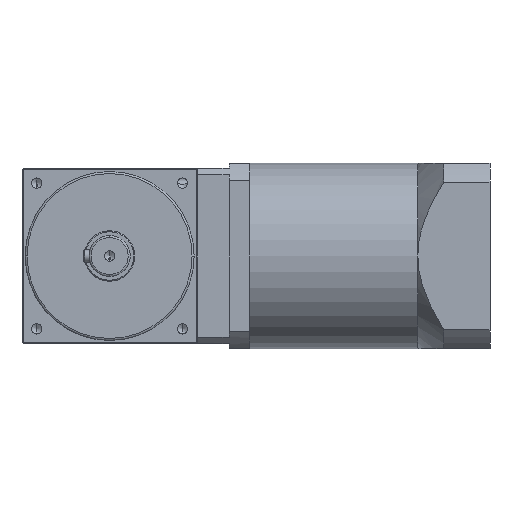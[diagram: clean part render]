
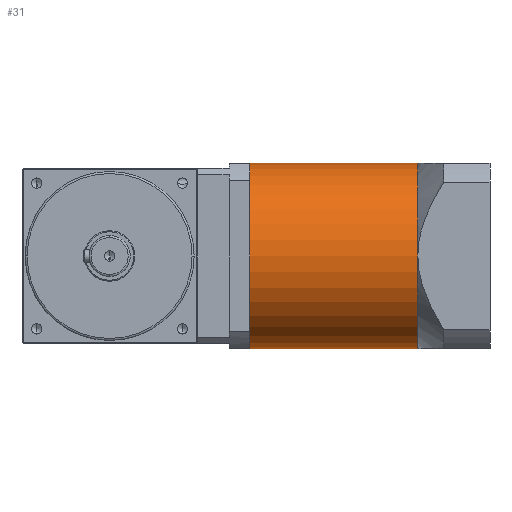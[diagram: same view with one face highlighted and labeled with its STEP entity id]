
A CAD part, left-side view. The second image highlights one B-rep face of the part: STEP entity #31.
In plain terms, the highlighted cylindrical face has radius 45 mm (diameter 90 mm), a partial arc.
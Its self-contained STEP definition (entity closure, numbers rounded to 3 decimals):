
#31 = ADVANCED_FACE ( 'NONE', ( #8100 ), #8512, .T. ) ;
#374 = VERTEX_POINT ( 'NONE', #872 ) ;
#785 = CARTESIAN_POINT ( 'NONE',  ( 0., -68., -45. ) ) ;
#872 = CARTESIAN_POINT ( 'NONE',  ( 0., -149.5, -45. ) ) ;
#1024 = ORIENTED_EDGE ( 'NONE', *, *, #7575, .T. ) ;
#1507 = VERTEX_POINT ( 'NONE', #5269 ) ;
#1534 = AXIS2_PLACEMENT_3D ( 'NONE', #8989, #8958, #9390 ) ;
#1948 = CIRCLE ( 'NONE', #5337, 45. ) ;
#2229 = DIRECTION ( 'NONE',  ( 0., 0., 1. ) ) ;
#2371 = CARTESIAN_POINT ( 'NONE',  ( 0., -149.5, 0. ) ) ;
#2530 = DIRECTION ( 'NONE',  ( 0., 1., 0. ) ) ;
#2550 = CARTESIAN_POINT ( 'NONE',  ( 0., -149.5, -45. ) ) ;
#2559 = DIRECTION ( 'NONE',  ( 0., 1., 0. ) ) ;
#2613 = DIRECTION ( 'NONE',  ( 0., 0., 1. ) ) ;
#2624 = DIRECTION ( 'NONE',  ( 0., -1., 0. ) ) ;
#2646 = DIRECTION ( 'NONE',  ( 0., 1., 0. ) ) ;
#2688 = CARTESIAN_POINT ( 'NONE',  ( 0., -149.5, 0. ) ) ;
#2704 = ORIENTED_EDGE ( 'NONE', *, *, #7770, .T. ) ;
#2847 = CARTESIAN_POINT ( 'NONE',  ( 0., -68., 45. ) ) ;
#3003 = DIRECTION ( 'NONE',  ( 0., 1., 0. ) ) ;
#3493 = LINE ( 'NONE', #7544, #9227 ) ;
#4025 = AXIS2_PLACEMENT_3D ( 'NONE', #2371, #2559, #2229 ) ;
#4258 = ORIENTED_EDGE ( 'NONE', *, *, #5307, .F. ) ;
#4364 = DIRECTION ( 'NONE',  ( 0., -1., 0. ) ) ;
#4667 = CIRCLE ( 'NONE', #8043, 45. ) ;
#5103 = VERTEX_POINT ( 'NONE', #5537 ) ;
#5269 = CARTESIAN_POINT ( 'NONE',  ( 0., -149.5, 45. ) ) ;
#5307 = EDGE_CURVE ( 'NONE', #374, #5511, #7387, .T. ) ;
#5337 = AXIS2_PLACEMENT_3D ( 'NONE', #7189, #2624, #7942 ) ;
#5400 = ORIENTED_EDGE ( 'NONE', *, *, #7651, .T. ) ;
#5511 = VERTEX_POINT ( 'NONE', #785 ) ;
#5537 = CARTESIAN_POINT ( 'NONE',  ( -45., -68., 0. ) ) ;
#5665 = AXIS2_PLACEMENT_3D ( 'NONE', #8837, #4364, #9561 ) ;
#5704 = VERTEX_POINT ( 'NONE', #7914 ) ;
#6981 = ORIENTED_EDGE ( 'NONE', *, *, #8823, .T. ) ;
#7009 = EDGE_LOOP ( 'NONE', ( #4258, #8333, #1024, #6981, #5400, #2704 ) ) ;
#7189 = CARTESIAN_POINT ( 'NONE',  ( 0., -68., 0. ) ) ;
#7324 = EDGE_CURVE ( 'NONE', #374, #5704, #7980, .T. ) ;
#7387 = LINE ( 'NONE', #2550, #9886 ) ;
#7544 = CARTESIAN_POINT ( 'NONE',  ( 0., -149.5, 45. ) ) ;
#7575 = EDGE_CURVE ( 'NONE', #5704, #1507, #4667, .T. ) ;
#7651 = EDGE_CURVE ( 'NONE', #7959, #5103, #1948, .T. ) ;
#7770 = EDGE_CURVE ( 'NONE', #5103, #5511, #8071, .T. ) ;
#7914 = CARTESIAN_POINT ( 'NONE',  ( -45., -149.5, 0. ) ) ;
#7942 = DIRECTION ( 'NONE',  ( 0., 0., 1. ) ) ;
#7959 = VERTEX_POINT ( 'NONE', #2847 ) ;
#7980 = CIRCLE ( 'NONE', #1534, 45. ) ;
#8043 = AXIS2_PLACEMENT_3D ( 'NONE', #2688, #2646, #2613 ) ;
#8071 = CIRCLE ( 'NONE', #5665, 45. ) ;
#8100 = FACE_OUTER_BOUND ( 'NONE', #7009, .T. ) ;
#8333 = ORIENTED_EDGE ( 'NONE', *, *, #7324, .T. ) ;
#8512 = CYLINDRICAL_SURFACE ( 'NONE', #4025, 45. ) ;
#8823 = EDGE_CURVE ( 'NONE', #1507, #7959, #3493, .T. ) ;
#8837 = CARTESIAN_POINT ( 'NONE',  ( 0., -68., 0. ) ) ;
#8958 = DIRECTION ( 'NONE',  ( 0., 1., 0. ) ) ;
#8989 = CARTESIAN_POINT ( 'NONE',  ( 0., -149.5, 0. ) ) ;
#9227 = VECTOR ( 'NONE', #3003, 1000. ) ;
#9390 = DIRECTION ( 'NONE',  ( 0., 0., 1. ) ) ;
#9561 = DIRECTION ( 'NONE',  ( 0., 0., 1. ) ) ;
#9886 = VECTOR ( 'NONE', #2530, 1000. ) ;
